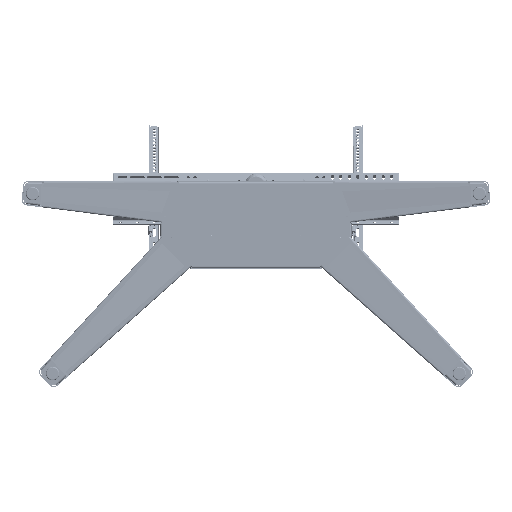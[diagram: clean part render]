
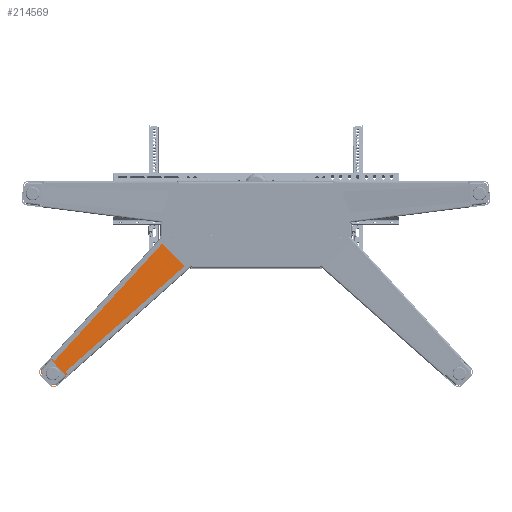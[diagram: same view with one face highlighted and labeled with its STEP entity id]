
A CAD part, left-side view. The second image highlights one B-rep face of the part: STEP entity #214569.
In plain terms, the highlighted planar face has unit normal (-0.999, -0.034, 0.033) as drawn and (0.034, -0.999, 0.033) by its records, which use the part's own axes.
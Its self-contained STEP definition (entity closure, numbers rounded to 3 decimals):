
#212207=CARTESIAN_POINT('',(-273.484,51.496,
-28.513));
#212226=CARTESIAN_POINT('',(-273.396,51.502,
-28.422));
#212227=CARTESIAN_POINT('',(-273.406,51.502,
-28.432));
#212228=CARTESIAN_POINT('',(-273.426,51.5,
-28.452));
#212229=CARTESIAN_POINT('',(-273.457,51.498,
-28.481));
#212230=CARTESIAN_POINT('',(-273.474,51.497,
-28.503));
#212231=CARTESIAN_POINT('',(-273.484,51.496,
-28.513));
#212273=CARTESIAN_POINT('',(-192.032,51.505,
-111.098));
#212295=CARTESIAN_POINT('',(-192.879,51.496,
-110.538));
#212474=DIRECTION('',(0.664,-0.002,-0.748));
#212475=VECTOR('',#212474,0.103);
#212476=CARTESIAN_POINT('',(-589.623,26.187,
-462.741));
#212477=LINE('',#212476,#212475);
#212622=DIRECTION('',(0.701,0.,-0.713));
#212623=VECTOR('',#212622,41.477);
#212624=CARTESIAN_POINT('',(-632.435,25.731,
-432.798));
#212625=LINE('',#212624,#212623);
#212635=DIRECTION('',(-0.712,-0.048,
-0.7));
#212636=VECTOR('',#212635,0.147);
#212637=CARTESIAN_POINT('',(-632.33,25.738,
-432.695));
#212638=LINE('',#212637,#212636);
#212684=DIRECTION('',(0.676,0.048,0.735));
#212685=VECTOR('',#212684,531.126);
#212686=CARTESIAN_POINT('',(-632.632,26.187,
-418.983));
#212687=LINE('',#212686,#212685);
#212688=DIRECTION('',(0.701,0.,-0.713));
#212689=VECTOR('',#212688,75.002);
#212690=CARTESIAN_POINT('',(-273.396,51.502,
-28.422));
#212691=LINE('',#212690,#212689);
#212692=CARTESIAN_POINT('',(-220.827,51.502,
-81.918));
#212693=CARTESIAN_POINT('',(-217.632,51.502,
-85.164));
#212694=CARTESIAN_POINT('',(-211.241,51.503,
-91.655));
#212695=CARTESIAN_POINT('',(-201.637,51.505,
-101.371));
#212696=CARTESIAN_POINT('',(-195.237,51.504,
-107.863));
#212697=CARTESIAN_POINT('',(-192.032,51.505,
-111.098));
#212699=CARTESIAN_POINT('',(-192.032,51.505,
-111.098));
#212700=CARTESIAN_POINT('',(-192.059,51.503,
-111.125));
#212701=CARTESIAN_POINT('',(-192.103,51.503,
-111.138));
#212702=CARTESIAN_POINT('',(-192.166,51.502,
-111.073));
#212703=CARTESIAN_POINT('',(-192.241,51.502,
-111.024));
#212704=CARTESIAN_POINT('',(-192.323,51.501,
-110.964));
#212705=CARTESIAN_POINT('',(-192.414,51.5,
-110.9));
#212706=CARTESIAN_POINT('',(-192.514,51.499,
-110.827));
#212707=CARTESIAN_POINT('',(-192.624,51.498,
-110.744));
#212708=CARTESIAN_POINT('',(-192.745,51.497,
-110.649));
#212709=CARTESIAN_POINT('',(-192.833,51.497,
-110.577));
#212710=CARTESIAN_POINT('',(-192.879,51.496,
-110.538));
#212712=DIRECTION('',(-0.747,-0.048,
-0.663));
#212713=VECTOR('',#212712,531.125);
#212714=CARTESIAN_POINT('',(-192.879,51.496,
-110.538));
#212715=LINE('',#212714,#212713);
#212716=CARTESIAN_POINT('',(-589.623,26.187,
-462.741));
#212717=CARTESIAN_POINT('',(-590.456,26.136,
-463.43));
#212718=CARTESIAN_POINT('',(-592.138,26.042,
-464.516));
#212719=CARTESIAN_POINT('',(-594.536,25.937,
-465.207));
#212720=CARTESIAN_POINT('',(-597.446,25.834,
-465.334));
#212721=CARTESIAN_POINT('',(-600.679,25.755,
-464.379));
#212722=CARTESIAN_POINT('',(-602.413,25.739,
-463.108));
#212723=CARTESIAN_POINT('',(-603.259,25.738,
-462.279));
#212725=DIRECTION('',(-0.712,-0.048,
-0.7));
#212726=VECTOR('',#212725,0.147);
#212727=CARTESIAN_POINT('',(-603.259,25.738,
-462.279));
#212728=LINE('',#212727,#212726);
#212729=CARTESIAN_POINT('',(-632.33,25.738,
-432.695));
#212730=CARTESIAN_POINT('',(-633.081,25.74,
-431.879));
#212731=CARTESIAN_POINT('',(-634.272,25.755,
-430.211));
#212732=CARTESIAN_POINT('',(-635.099,25.811,
-427.698));
#212733=CARTESIAN_POINT('',(-635.286,25.904,
-424.732));
#212734=CARTESIAN_POINT('',(-634.437,26.038,
-421.592));
#212735=CARTESIAN_POINT('',(-633.304,26.134,
-419.886));
#212736=CARTESIAN_POINT('',(-632.554,26.187,
-419.052));
#213319=DIRECTION('',(0.749,0.003,-0.662));
#213320=VECTOR('',#213319,0.104);
#213321=CARTESIAN_POINT('',(-632.632,26.187,
-418.983));
#213322=LINE('',#213321,#213320);
#213404=VERTEX_POINT('',#212207);
#213405=CARTESIAN_POINT('',(-632.632,26.187,
-418.983));
#213406=VERTEX_POINT('',#213405);
#213411=CARTESIAN_POINT('',(-273.397,51.502,
-28.423));
#213412=VERTEX_POINT('',#213411);
#213418=VERTEX_POINT('',#212273);
#213424=VERTEX_POINT('',#212295);
#213467=CARTESIAN_POINT('',(-589.555,26.187,
-462.818));
#213468=VERTEX_POINT('',#213467);
#213469=CARTESIAN_POINT('',(-589.623,26.187,
-462.741));
#213470=VERTEX_POINT('',#213469);
#213489=CARTESIAN_POINT('',(-632.435,25.731,
-432.798));
#213490=VERTEX_POINT('',#213489);
#213491=CARTESIAN_POINT('',(-603.363,25.731,
-462.382));
#213492=VERTEX_POINT('',#213491);
#213495=CARTESIAN_POINT('',(-632.33,25.738,
-432.695));
#213496=VERTEX_POINT('',#213495);
#213497=CARTESIAN_POINT('',(-603.259,25.738,
-462.279));
#213498=VERTEX_POINT('',#213497);
#213499=VERTEX_POINT('',#212692);
#213500=VERTEX_POINT('',#212736);
#214544=CARTESIAN_POINT('',(-285.641,51.503,
-15.928));
#214545=DIRECTION('',(0.034,-0.999,0.033));
#214546=DIRECTION('',(-0.712,-0.048,
-0.7));
#214547=AXIS2_PLACEMENT_3D('',#214544,#214545,#214546);
#214548=PLANE('',#214547);
#214549=ORIENTED_EDGE('',*,*,#213814,.T.);
#214550=ORIENTED_EDGE('',*,*,#213874,.F.);
#214552=ORIENTED_EDGE('',*,*,#214551,.T.);
#214554=ORIENTED_EDGE('',*,*,#214553,.T.);
#214555=ORIENTED_EDGE('',*,*,#213987,.T.);
#214556=ORIENTED_EDGE('',*,*,#214197,.T.);
#214557=ORIENTED_EDGE('',*,*,#214215,.F.);
#214559=ORIENTED_EDGE('',*,*,#214558,.T.);
#214560=ORIENTED_EDGE('',*,*,#214535,.T.);
#214561=ORIENTED_EDGE('',*,*,#214410,.F.);
#214562=ORIENTED_EDGE('',*,*,#214429,.F.);
#214564=ORIENTED_EDGE('',*,*,#214563,.T.);
#214566=ORIENTED_EDGE('',*,*,#214565,.F.);
#214567=EDGE_LOOP('',(#214549,#214550,#214552,#214554,#214555,#214556,#214557,
#214559,#214560,#214561,#214562,#214564,#214566));
#214568=FACE_OUTER_BOUND('',#214567,.F.);
#214569=ADVANCED_FACE('',(#214568),#214548,.T.);
#212232=B_SPLINE_CURVE_WITH_KNOTS('',3,(#212226,#212227,#212228,#212229,#212230,
#212231),.UNSPECIFIED.,.F.,.F.,(4,1,1,4),(0.,0.333,
0.667,1.),.UNSPECIFIED.);
#212698=B_SPLINE_CURVE_WITH_KNOTS('',3,(#212692,#212693,#212694,#212695,#212696,
#212697),.UNSPECIFIED.,.F.,.F.,(4,1,1,4),(0.,0.333,
0.667,1.),.UNSPECIFIED.);
#212711=B_SPLINE_CURVE_WITH_KNOTS('',3,(#212699,#212700,#212701,#212702,#212703,
#212704,#212705,#212706,#212707,#212708,#212709,#212710),.UNSPECIFIED.,.F.,.F.,(
4,1,1,1,1,1,1,1,1,4),(0.,0.111,0.222,
0.333,0.444,0.556,0.667,
0.778,0.889,1.),.UNSPECIFIED.);
#212724=B_SPLINE_CURVE_WITH_KNOTS('',3,(#212716,#212717,#212718,#212719,#212720,
#212721,#212722,#212723),.UNSPECIFIED.,.F.,.F.,(4,1,1,1,1,4),(0.,
0.198,0.399,0.6,0.8,1.),
.UNSPECIFIED.);
#212737=B_SPLINE_CURVE_WITH_KNOTS('',3,(#212729,#212730,#212731,#212732,#212733,
#212734,#212735,#212736),.UNSPECIFIED.,.F.,.F.,(4,1,1,1,1,4),(0.,
0.198,0.399,0.6,0.8,1.),
.UNSPECIFIED.);
#213814=EDGE_CURVE('',#213406,#213404,#212687,.T.);
#213874=EDGE_CURVE('',#213412,#213404,#212232,.T.);
#213987=EDGE_CURVE('',#213418,#213424,#212711,.T.);
#214197=EDGE_CURVE('',#213424,#213468,#212715,.T.);
#214215=EDGE_CURVE('',#213470,#213468,#212477,.T.);
#214410=EDGE_CURVE('',#213490,#213492,#212625,.T.);
#214429=EDGE_CURVE('',#213496,#213490,#212638,.T.);
#214535=EDGE_CURVE('',#213498,#213492,#212728,.T.);
#214551=EDGE_CURVE('',#213412,#213499,#212691,.T.);
#214553=EDGE_CURVE('',#213499,#213418,#212698,.T.);
#214558=EDGE_CURVE('',#213470,#213498,#212724,.T.);
#214563=EDGE_CURVE('',#213496,#213500,#212737,.T.);
#214565=EDGE_CURVE('',#213406,#213500,#213322,.T.);
